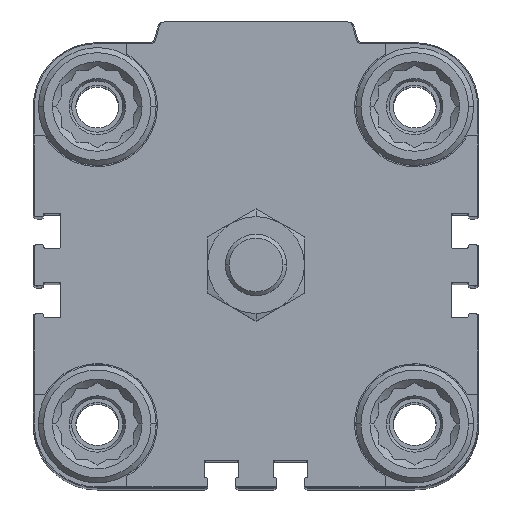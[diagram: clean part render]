
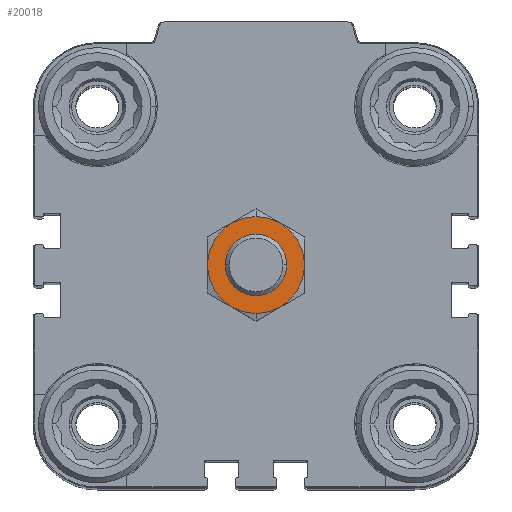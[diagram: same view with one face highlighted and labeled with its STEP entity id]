
A CAD part, top view. The second image highlights one B-rep face of the part: STEP entity #20018.
In plain terms, the highlighted planar face has unit normal (0, 0, 1).
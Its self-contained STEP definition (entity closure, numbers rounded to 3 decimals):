
#275 = CARTESIAN_POINT ( 'NONE',  ( 0., -6., 18.5 ) ) ;
#409 = AXIS2_PLACEMENT_3D ( 'NONE', #13724, #6862, #7290 ) ;
#576 = CARTESIAN_POINT ( 'NONE',  ( 0., 0., 18.5 ) ) ;
#1026 = VERTEX_POINT ( 'NONE', #20105 ) ;
#2384 = CIRCLE ( 'NONE', #6843, 6. ) ;
#3148 = EDGE_LOOP ( 'NONE', ( #8710, #9280 ) ) ;
#3326 = VERTEX_POINT ( 'NONE', #275 ) ;
#3861 = EDGE_CURVE ( 'NONE', #1026, #19925, #9035, .T. ) ;
#4757 = DIRECTION ( 'NONE',  ( 0., -1., 0. ) ) ;
#4933 = ORIENTED_EDGE ( 'NONE', *, *, #15608, .T. ) ;
#5869 = CARTESIAN_POINT ( 'NONE',  ( 0., 0., 18.5 ) ) ;
#6368 = DIRECTION ( 'NONE',  ( 0., 0., -1. ) ) ;
#6843 = AXIS2_PLACEMENT_3D ( 'NONE', #16110, #6368, #4757 ) ;
#6862 = DIRECTION ( 'NONE',  ( 0., 0., -1. ) ) ;
#7290 = DIRECTION ( 'NONE',  ( 0., -1., 0. ) ) ;
#7466 = PLANE ( 'NONE',  #21054 ) ;
#7567 = FACE_BOUND ( 'NONE', #15003, .T. ) ;
#8436 = CIRCLE ( 'NONE', #16644, 6. ) ;
#8490 = VERTEX_POINT ( 'NONE', #18589 ) ;
#8710 = ORIENTED_EDGE ( 'NONE', *, *, #3861, .F. ) ;
#9035 = CIRCLE ( 'NONE', #21041, 9.45 ) ;
#9280 = ORIENTED_EDGE ( 'NONE', *, *, #12343, .F. ) ;
#9290 = DIRECTION ( 'NONE',  ( 0., -1., 0. ) ) ;
#11850 = DIRECTION ( 'NONE',  ( 0., -1., 0. ) ) ;
#12343 = EDGE_CURVE ( 'NONE', #19925, #1026, #19262, .T. ) ;
#13724 = CARTESIAN_POINT ( 'NONE',  ( 0., 0., 18.5 ) ) ;
#13827 = ORIENTED_EDGE ( 'NONE', *, *, #18563, .T. ) ;
#14104 = CARTESIAN_POINT ( 'NONE',  ( 0., 0., 18.5 ) ) ;
#15003 = EDGE_LOOP ( 'NONE', ( #13827, #4933 ) ) ;
#15608 = EDGE_CURVE ( 'NONE', #3326, #8490, #2384, .T. ) ;
#16110 = CARTESIAN_POINT ( 'NONE',  ( 0., 0., 18.5 ) ) ;
#16644 = AXIS2_PLACEMENT_3D ( 'NONE', #5869, #19070, #9290 ) ;
#18563 = EDGE_CURVE ( 'NONE', #8490, #3326, #8436, .T. ) ;
#18589 = CARTESIAN_POINT ( 'NONE',  ( 0., 6., 18.5 ) ) ;
#19043 = DIRECTION ( 'NONE',  ( 0., -1., 0. ) ) ;
#19070 = DIRECTION ( 'NONE',  ( 0., 0., -1. ) ) ;
#19252 = FACE_OUTER_BOUND ( 'NONE', #3148, .T. ) ;
#19262 = CIRCLE ( 'NONE', #409, 9.45 ) ;
#19369 = CARTESIAN_POINT ( 'NONE',  ( 0., 9.45, 18.5 ) ) ;
#19925 = VERTEX_POINT ( 'NONE', #19369 ) ;
#20018 = ADVANCED_FACE ( 'NONE', ( #19252, #7567 ), #7466, .F. ) ;
#20105 = CARTESIAN_POINT ( 'NONE',  ( 0., -9.45, 18.5 ) ) ;
#20321 = DIRECTION ( 'NONE',  ( 0., 0., -1. ) ) ;
#20661 = DIRECTION ( 'NONE',  ( 0., 0., -1. ) ) ;
#21041 = AXIS2_PLACEMENT_3D ( 'NONE', #576, #20321, #11850 ) ;
#21054 = AXIS2_PLACEMENT_3D ( 'NONE', #14104, #20661, #19043 ) ;
